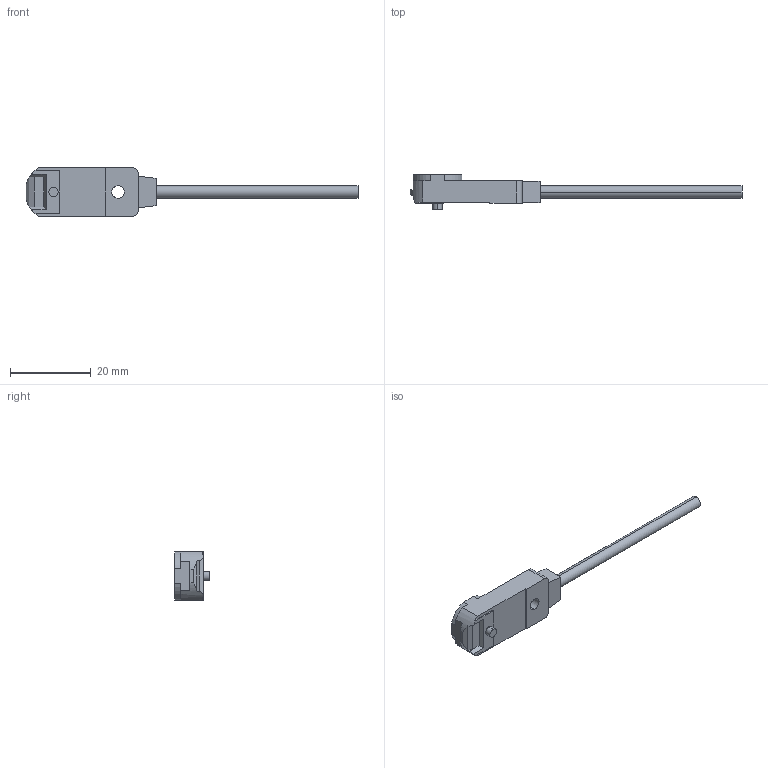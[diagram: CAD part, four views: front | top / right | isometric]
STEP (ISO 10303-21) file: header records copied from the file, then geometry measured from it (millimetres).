
FILE_DESCRIPTION (( 'STEP AP203' ), '1' );
FILE_NAME ('gx-f12a.STEP', '2007-09-20T08:45:40', ( 'kfh094' ), ( '' ), 'SwSTEP 2.0', 'SolidWorks 2005235', '' );
FILE_SCHEMA (( 'CONFIG_CONTROL_DESIGN' ));
Length unit declared in the file: millimetre
Products named in the file (1): gx-f12a
Bounding box: 82.2 x 8.6 x 12 mm (x, y, z)
Volume: 2358.1 mm3; surface area: 1748.3 mm2
Topology: 1 solids, 1 shells, 67 faces, 178 edges, 118 vertices
Faces by surface type: plane 47, cylinder 20
Entity records: 2161 total; most frequent: CARTESIAN_POINT 382, ORIENTED_EDGE 356, DIRECTION 352, EDGE_CURVE 178, VECTOR 128, LINE 128, VERTEX_POINT 118, AXIS2_PLACEMENT_3D 112
